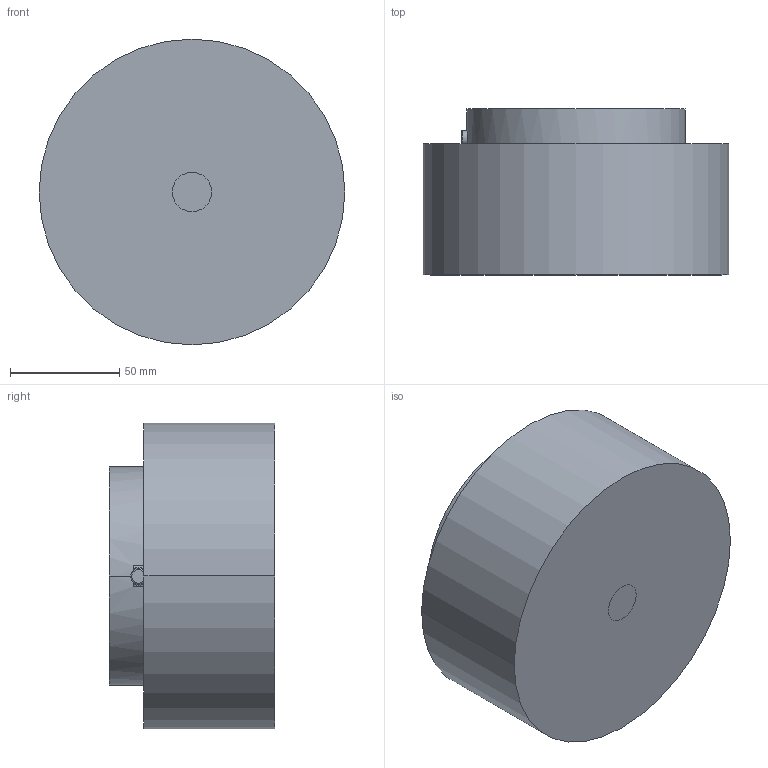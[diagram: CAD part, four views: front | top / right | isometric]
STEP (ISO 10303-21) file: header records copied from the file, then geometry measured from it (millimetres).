
FILE_DESCRIPTION((''),'2;1');
FILE_NAME('S44N101.stp','2020-09-19T08:41:18',(''),(''),'AutoCAD STEP 2000i','AutoCAD 2000i',', , ');
FILE_SCHEMA(('CONFIG_CONTROL_DESIGN'));
Length unit declared in the file: millimetre
Products named in the file (4): DRAWING1; MOLD BODY N44; NOLLZE S101N44; RING 44-2018
Assembly tree (3 placements, depth 2):
  DRAWING1
    MOLD BODY N44
    NOLLZE S101N44
    RING 44-2018
Bounding box: 140 x 76 x 140 mm (x, y, z)
Volume: 1025732.9 mm3; surface area: 99921.3 mm2
Topology: 3 solids, 3 shells, 142 faces, 339 edges, 216 vertices
Faces by surface type: cylinder 60, cone 38, plane 26, bspline 10, torus 8
Entity records: 4753 total; most frequent: CARTESIAN_POINT 1160, DIRECTION 820, ORIENTED_EDGE 674, AXIS2_PLACEMENT_3D 356, EDGE_CURVE 337, CIRCLE 220, VERTEX_POINT 216, EDGE_LOOP 169
